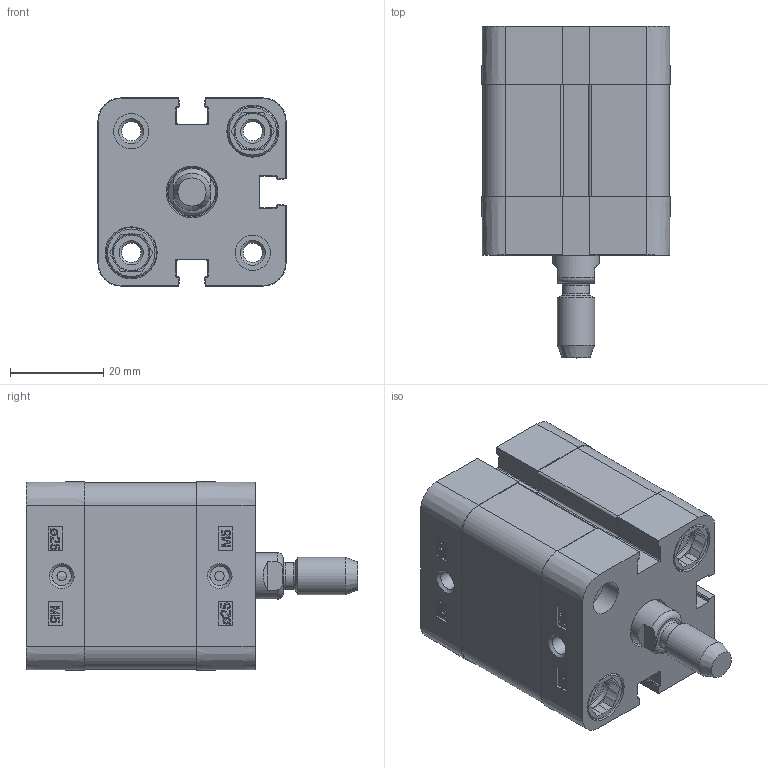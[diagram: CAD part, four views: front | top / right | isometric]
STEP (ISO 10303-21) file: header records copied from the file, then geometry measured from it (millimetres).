
FILE_DESCRIPTION((''),'2;1');
FILE_NAME('T:\Archivio Inventor\- CATALOGHI 2012\SERIE P - NUOVA\PDM\PDM025\PDM025.---.GS.M\PDM025.010.GS.M.stp','2013-01-31T08:04:54',('Administrator'),(''),'Autodesk Inventor 2012','Autodesk Inventor 2012','');
FILE_SCHEMA(('CONFIG_CONTROL_DESIGN'));
Length unit declared in the file: millimetre
Products named in the file (1): PDM025.010.GS.M
Bounding box: 40.3 x 71 x 40.3 mm (x, y, z)
Volume: 50752.8 mm3; surface area: 24662.6 mm2
Topology: 1 solids, 3 shells, 596 faces, 1552 edges, 1017 vertices
Faces by surface type: plane 312, cylinder 130, bspline 92, cone 50, torus 12
Full cylindrical faces by diameter (mm): 2 x2, 4.134 x10, 5.8 x1, 7.5 x4, 7.55 x2, 8 x9, 9 x1, 10 x1, 10.5 x1, 10.8 x4, 11.1 x4, 25 x1, 27.3 x1, 27.5 x1
Entity records: 18782 total; most frequent: CARTESIAN_POINT 4306, ORIENTED_EDGE 2888, DIRECTION 2606, EDGE_CURVE 1444, VERTEX_POINT 1002, VECTOR 898, LINE 898, AXIS2_PLACEMENT_3D 854
